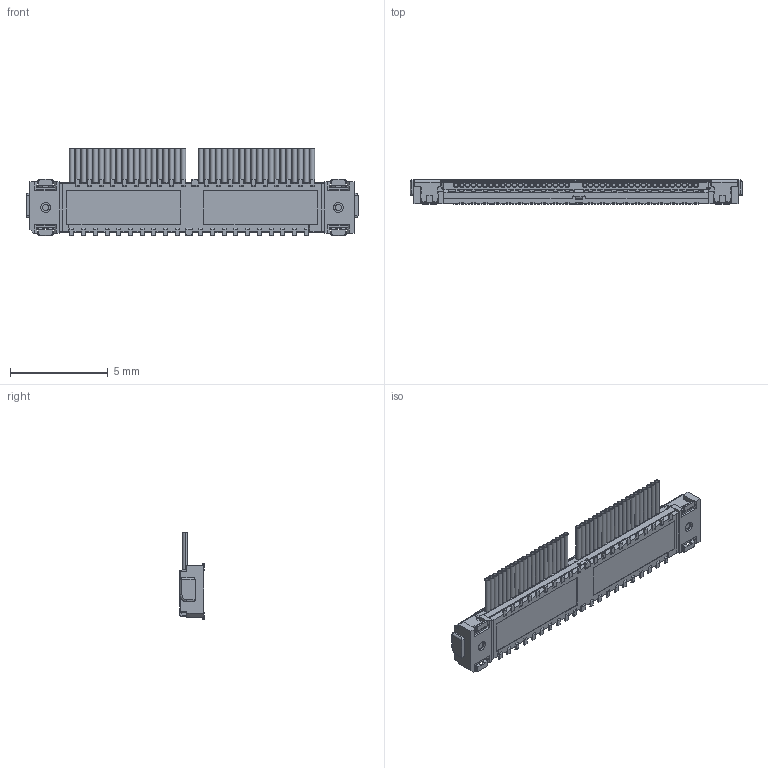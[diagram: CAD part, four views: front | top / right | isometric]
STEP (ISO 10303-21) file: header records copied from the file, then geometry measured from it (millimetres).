
FILE_DESCRIPTION (( 'STEP AP203' ), '1' );
FILE_NAME ('20496-040xxxC+20498-040ExxxC MATING STEP R1R2 ALL.STEP', '2012-05-29T11:47:50', ( 'I-PEX' ), ( 'I-PEX' ), 'SwSTEP 2.0', 'SolidWorks 2011', '' );
FILE_SCHEMA (( 'CONFIG_CONTROL_DESIGN' ));
Length unit declared in the file: millimetre
Products named in the file (1): 20496-040xxxC+20498-040ExxxC MATING STEP R1R2 ALL
Bounding box: 17 x 1.27 x 4.49 mm (x, y, z)
Volume: 51 mm3; surface area: 265.8 mm2
Topology: 1 solids, 1 shells, 1596 faces, 4375 edges, 2860 vertices
Faces by surface type: plane 1190, cylinder 372, cone 24, sphere 4, torus 4, bspline 2
Entity records: 50338 total; most frequent: CARTESIAN_POINT 9170, ORIENTED_EDGE 8742, DIRECTION 8276, EDGE_CURVE 4371, VECTOR 3568, LINE 3568, VERTEX_POINT 2860, AXIS2_PLACEMENT_3D 2354
